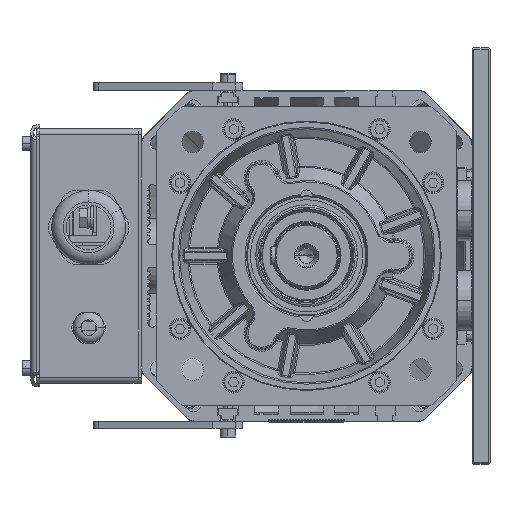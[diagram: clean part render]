
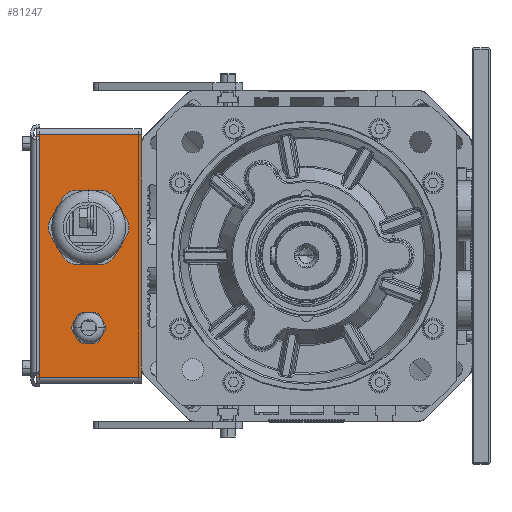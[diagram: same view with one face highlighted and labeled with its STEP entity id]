
A CAD part, left-side view. The second image highlights one B-rep face of the part: STEP entity #81247.
In plain terms, the highlighted planar face has unit normal (-1, 0, 0).
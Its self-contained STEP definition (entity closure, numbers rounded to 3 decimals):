
#79079=DIRECTION('',(0.,0.,1.));
#79080=VECTOR('',#79079,162.);
#79081=CARTESIAN_POINT('',(252.,110.5,-81.));
#79082=LINE('',#79081,#79080);
#79356=CARTESIAN_POINT('',(252.,145.5,-48.));
#79357=DIRECTION('',(-1.,0.,0.));
#79358=DIRECTION('',(0.,1.,0.));
#79359=AXIS2_PLACEMENT_3D('',#79356,#79357,#79358);
#79361=CARTESIAN_POINT('',(252.,145.5,-48.));
#79362=DIRECTION('',(-1.,0.,0.));
#79363=DIRECTION('',(0.,-1.,0.));
#79364=AXIS2_PLACEMENT_3D('',#79361,#79362,#79363);
#79366=CARTESIAN_POINT('',(252.,145.5,19.));
#79367=DIRECTION('',(-1.,0.,0.));
#79368=DIRECTION('',(0.,1.,0.));
#79369=AXIS2_PLACEMENT_3D('',#79366,#79367,#79368);
#79371=CARTESIAN_POINT('',(252.,145.5,19.));
#79372=DIRECTION('',(-1.,0.,0.));
#79373=DIRECTION('',(0.,-1.,0.));
#79374=AXIS2_PLACEMENT_3D('',#79371,#79372,#79373);
#79376=DIRECTION('',(0.,0.,1.));
#79377=VECTOR('',#79376,162.);
#79378=CARTESIAN_POINT('',(252.,180.5,-81.));
#79379=LINE('',#79378,#79377);
#80290=DIRECTION('',(0.,-1.,0.));
#80291=VECTOR('',#80290,70.);
#80292=CARTESIAN_POINT('',(252.,180.5,-81.));
#80293=LINE('',#80292,#80291);
#80310=DIRECTION('',(0.,1.,0.));
#80311=VECTOR('',#80310,70.);
#80312=CARTESIAN_POINT('',(252.,110.5,81.));
#80313=LINE('',#80312,#80311);
#80630=CARTESIAN_POINT('',(252.,155.5,-48.));
#80631=CARTESIAN_POINT('',(252.,135.5,-48.));
#80632=VERTEX_POINT('',#80630);
#80633=VERTEX_POINT('',#80631);
#80634=CARTESIAN_POINT('',(252.,170.5,19.));
#80635=CARTESIAN_POINT('',(252.,120.5,19.));
#80636=VERTEX_POINT('',#80634);
#80637=VERTEX_POINT('',#80635);
#80782=CARTESIAN_POINT('',(252.,110.5,-81.));
#80784=VERTEX_POINT('',#80782);
#80795=CARTESIAN_POINT('',(252.,110.5,81.));
#80797=VERTEX_POINT('',#80795);
#80830=CARTESIAN_POINT('',(252.,180.5,81.));
#80832=VERTEX_POINT('',#80830);
#80843=CARTESIAN_POINT('',(252.,180.5,-81.));
#80845=VERTEX_POINT('',#80843);
#81222=CARTESIAN_POINT('',(252.,110.5,-85.));
#81223=DIRECTION('',(-1.,0.,0.));
#81224=DIRECTION('',(0.,0.,1.));
#81225=AXIS2_PLACEMENT_3D('',#81222,#81223,#81224);
#81226=PLANE('',#81225);
#81228=ORIENTED_EDGE('',*,*,#81227,.F.);
#81229=ORIENTED_EDGE('',*,*,#81029,.F.);
#81231=ORIENTED_EDGE('',*,*,#81230,.F.);
#81232=ORIENTED_EDGE('',*,*,#81089,.T.);
#81233=EDGE_LOOP('',(#81228,#81229,#81231,#81232));
#81234=FACE_OUTER_BOUND('',#81233,.F.);
#81236=ORIENTED_EDGE('',*,*,#81235,.T.);
#81238=ORIENTED_EDGE('',*,*,#81237,.T.);
#81239=EDGE_LOOP('',(#81236,#81238));
#81240=FACE_BOUND('',#81239,.F.);
#81242=ORIENTED_EDGE('',*,*,#81241,.T.);
#81244=ORIENTED_EDGE('',*,*,#81243,.T.);
#81245=EDGE_LOOP('',(#81242,#81244));
#81246=FACE_BOUND('',#81245,.F.);
#81247=ADVANCED_FACE('',(#81234,#81240,#81246),#81226,.T.);
#79360=CIRCLE('',#79359,10.);
#79365=CIRCLE('',#79364,10.);
#79370=CIRCLE('',#79369,25.);
#79375=CIRCLE('',#79374,25.);
#81029=EDGE_CURVE('',#80784,#80797,#79082,.T.);
#81089=EDGE_CURVE('',#80845,#80832,#79379,.T.);
#81227=EDGE_CURVE('',#80797,#80832,#80313,.T.);
#81230=EDGE_CURVE('',#80845,#80784,#80293,.T.);
#81235=EDGE_CURVE('',#80636,#80637,#79370,.T.);
#81237=EDGE_CURVE('',#80637,#80636,#79375,.T.);
#81241=EDGE_CURVE('',#80632,#80633,#79360,.T.);
#81243=EDGE_CURVE('',#80633,#80632,#79365,.T.);
